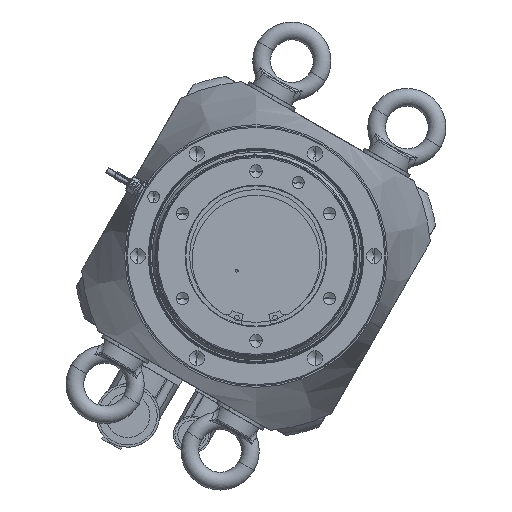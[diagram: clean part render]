
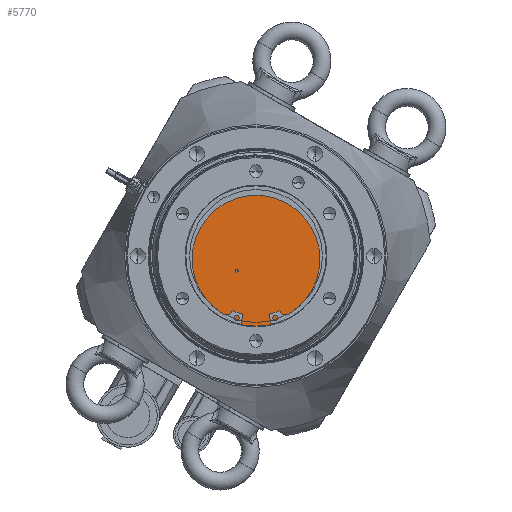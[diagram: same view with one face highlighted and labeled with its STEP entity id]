
A CAD part, front view. The second image highlights one B-rep face of the part: STEP entity #5770.
In plain terms, the highlighted planar face has unit normal (0, -1, 0).
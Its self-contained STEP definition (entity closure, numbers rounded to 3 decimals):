
#2363 = CARTESIAN_POINT ( 'NONE',  ( -12.971, -49.5, -9.993 ) ) ;
#3264 = ORIENTED_EDGE ( 'NONE', *, *, #12469, .T. ) ;
#5770 = ADVANCED_FACE ( 'NONE', ( #49008, #9078 ), #35915, .F. ) ;
#6338 = ORIENTED_EDGE ( 'NONE', *, *, #48525, .F. ) ;
#9078 = FACE_BOUND ( 'NONE', #40151, .T. ) ;
#10257 = ORIENTED_EDGE ( 'NONE', *, *, #15278, .F. ) ;
#10558 = CARTESIAN_POINT ( 'NONE',  ( -12.971, -49.5, -10.993 ) ) ;
#11154 = AXIS2_PLACEMENT_3D ( 'NONE', #39589, #17485, #18052 ) ;
#11369 = DIRECTION ( 'NONE',  ( 0., 1., 0. ) ) ;
#12469 = EDGE_CURVE ( 'NONE', #22781, #24709, #36994, .T. ) ;
#12644 = CARTESIAN_POINT ( 'NONE',  ( -12.971, -49.5, -9.993 ) ) ;
#12699 = CARTESIAN_POINT ( 'NONE',  ( 0., -49.5, 0. ) ) ;
#15278 = EDGE_CURVE ( 'NONE', #40677, #18084, #21581, .T. ) ;
#15408 = CARTESIAN_POINT ( 'NONE',  ( 0., -49.5, 47.5 ) ) ;
#16366 = AXIS2_PLACEMENT_3D ( 'NONE', #46648, #37044, #41700 ) ;
#17485 = DIRECTION ( 'NONE',  ( 0., 1., 0. ) ) ;
#17766 = CARTESIAN_POINT ( 'NONE',  ( -12.971, -49.5, -8.993 ) ) ;
#18052 = DIRECTION ( 'NONE',  ( 0., 0., 1. ) ) ;
#18084 = VERTEX_POINT ( 'NONE', #50951 ) ;
#21236 = AXIS2_PLACEMENT_3D ( 'NONE', #2363, #11369, #29146 ) ;
#21581 = CIRCLE ( 'NONE', #52251, 47.5 ) ;
#22781 = VERTEX_POINT ( 'NONE', #17766 ) ;
#24709 = VERTEX_POINT ( 'NONE', #10558 ) ;
#27021 = EDGE_LOOP ( 'NONE', ( #6338, #10257 ) ) ;
#29146 = DIRECTION ( 'NONE',  ( 0., 0., 1. ) ) ;
#34014 = DIRECTION ( 'NONE',  ( 0., 0., 1. ) ) ;
#35915 = PLANE ( 'NONE',  #16366 ) ;
#36994 = CIRCLE ( 'NONE', #47232, 1. ) ;
#37044 = DIRECTION ( 'NONE',  ( 0., 1., 0. ) ) ;
#39589 = CARTESIAN_POINT ( 'NONE',  ( 0., -49.5, 0. ) ) ;
#40151 = EDGE_LOOP ( 'NONE', ( #49809, #3264 ) ) ;
#40677 = VERTEX_POINT ( 'NONE', #15408 ) ;
#41700 = DIRECTION ( 'NONE',  ( 0., 0., 1. ) ) ;
#44980 = DIRECTION ( 'NONE',  ( 0., 0., 1. ) ) ;
#46347 = CIRCLE ( 'NONE', #21236, 1. ) ;
#46648 = CARTESIAN_POINT ( 'NONE',  ( 0., -49.5, 0. ) ) ;
#47106 = DIRECTION ( 'NONE',  ( 0., 1., 0. ) ) ;
#47232 = AXIS2_PLACEMENT_3D ( 'NONE', #12644, #57202, #44980 ) ;
#47561 = EDGE_CURVE ( 'NONE', #24709, #22781, #46347, .T. ) ;
#48525 = EDGE_CURVE ( 'NONE', #18084, #40677, #55829, .T. ) ;
#49008 = FACE_OUTER_BOUND ( 'NONE', #27021, .T. ) ;
#49809 = ORIENTED_EDGE ( 'NONE', *, *, #47561, .T. ) ;
#50951 = CARTESIAN_POINT ( 'NONE',  ( 0., -49.5, -47.5 ) ) ;
#52251 = AXIS2_PLACEMENT_3D ( 'NONE', #12699, #47106, #34014 ) ;
#55829 = CIRCLE ( 'NONE', #11154, 47.5 ) ;
#57202 = DIRECTION ( 'NONE',  ( 0., 1., 0. ) ) ;
